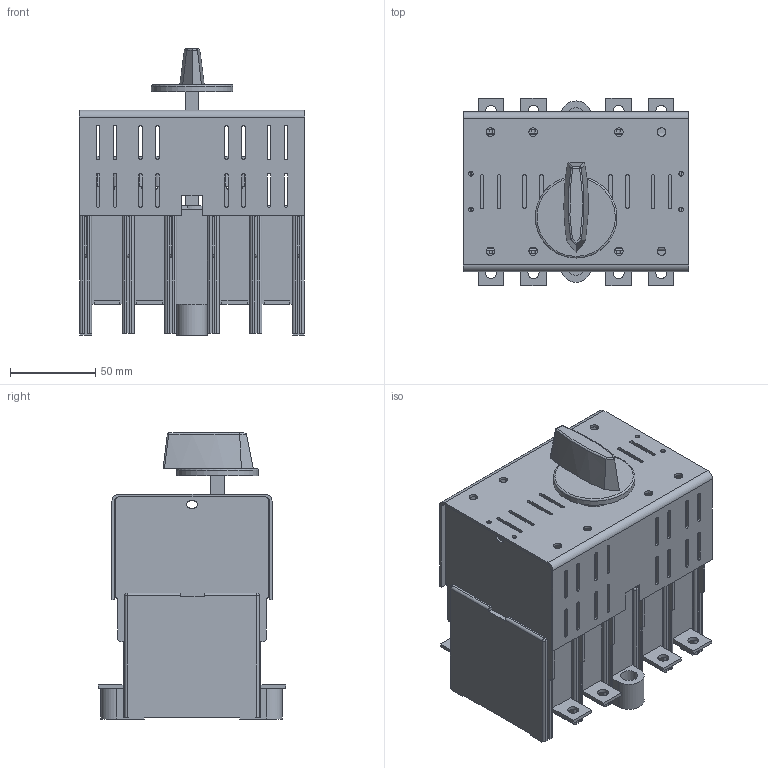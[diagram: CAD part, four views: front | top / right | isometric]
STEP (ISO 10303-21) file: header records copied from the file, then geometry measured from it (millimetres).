
FILE_DESCRIPTION(/* description */ (''),/* implementation_level */ '2;1');
FILE_NAME(/* name */ 'RAB 000 P3 N-R, P4-R.stp',/* time_stamp */ '2021-08-19T09:44:32+02:00',/* author */ (''),/* organization */ (''),/* preprocessor_version */ 'ST-DEVELOPER v18.1',/* originating_system */ 'SIEMENS PLM Software NX 1965',/* authorisation */ '');
FILE_SCHEMA (('AUTOMOTIVE_DESIGN { 1 0 10303 214 3 1 1 1 }'));
Length unit declared in the file: millimetre
Products named in the file (1): RAB 000 P3 N-R, P4-R_stp
Bounding box: 132.5 x 110 x 168 mm (x, y, z)
Volume: 755686.2 mm3; surface area: 214156.7 mm2
Topology: 1 solids, 1 shells, 1032 faces, 2921 edges, 1871 vertices
Faces by surface type: plane 662, cylinder 337, sphere 25, bspline 7, torus 1
Full cylindrical faces by diameter (mm): 2.7 x4, 5 x8, 5.8 x2, 6.5 x8, 10 x2, 20 x1, 48 x1
Entity records: 33306 total; most frequent: CARTESIAN_POINT 6246, ORIENTED_EDGE 5712, DIRECTION 5476, EDGE_CURVE 2856, LINE 2094, VECTOR 2094, VERTEX_POINT 1859, AXIS2_PLACEMENT_3D 1691
